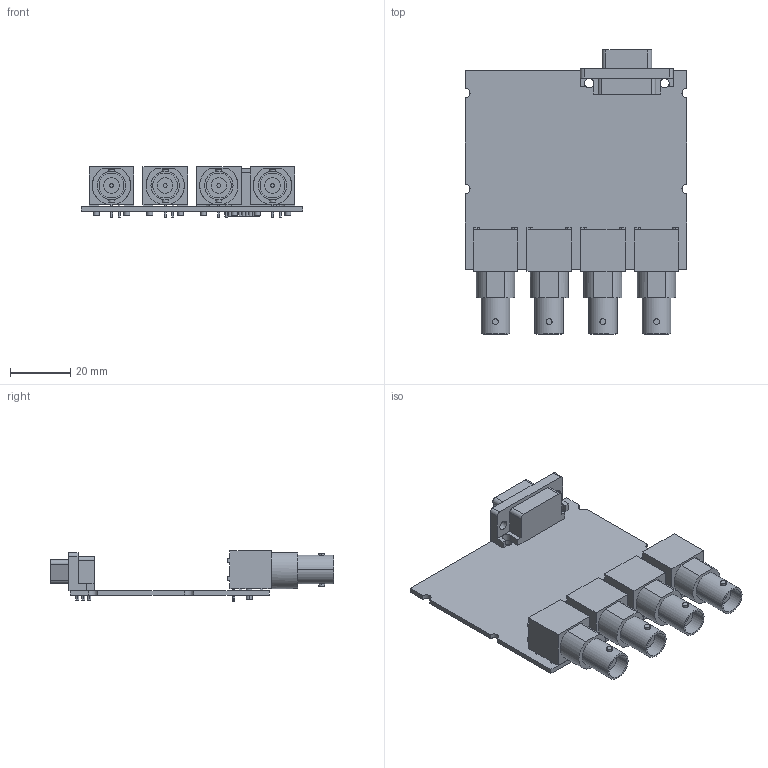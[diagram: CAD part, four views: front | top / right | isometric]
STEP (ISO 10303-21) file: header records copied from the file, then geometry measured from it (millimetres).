
FILE_DESCRIPTION((''),'2;1');
FILE_NAME('CU_NI-9243E','2014-09-17T',('dkendric'),(''),'PRO/ENGINEER BY PARAMETRIC TECHNOLOGY CORPORATION, 2014000','PRO/ENGINEER BY PARAMETRIC TECHNOLOGY CORPORATION, 2014000','');
FILE_SCHEMA(('CONFIG_CONTROL_DESIGN'));
Length unit declared in the file: inch
Products named in the file (1): CU_NI-9243E
Bounding box: 73.38 x 94.06 x 16.66 mm (x, y, z)
Volume: 27271.8 mm3; surface area: 20337.3 mm2
Topology: 1 solids, 1 shells, 406 faces, 1044 edges, 694 vertices
Faces by surface type: plane 224, cylinder 182
Entity records: 12792 total; most frequent: CARTESIAN_POINT 2416, DIRECTION 2196, ORIENTED_EDGE 2088, EDGE_CURVE 1044, AXIS2_PLACEMENT_3D 762, VERTEX_POINT 694, VECTOR 672, LINE 672
